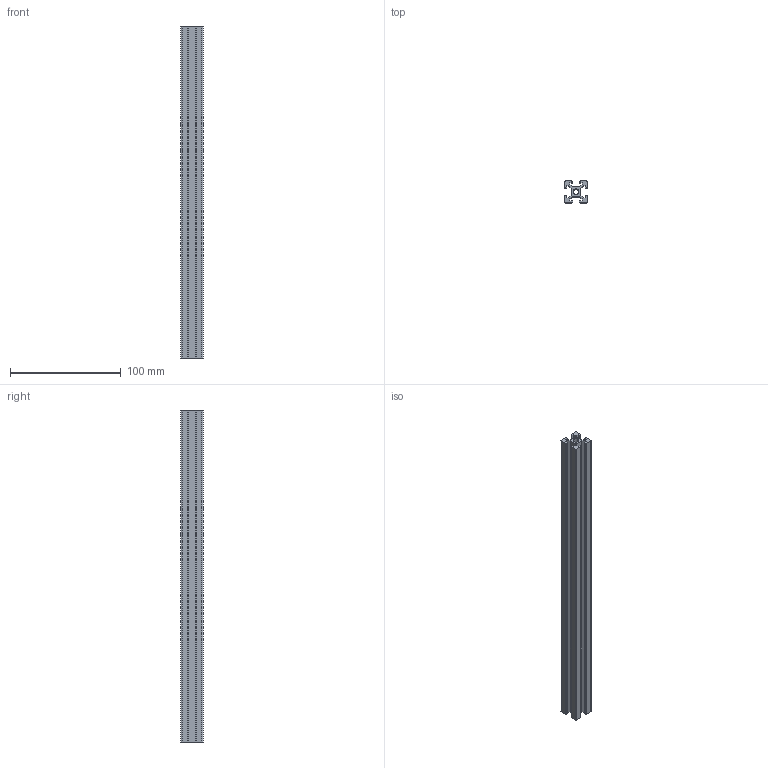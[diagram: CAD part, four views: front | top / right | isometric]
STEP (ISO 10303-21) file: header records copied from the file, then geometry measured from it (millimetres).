
FILE_DESCRIPTION (( 'STEP AP203' ), '1' );
FILE_NAME ('4-CE-2020-6.STEP', '2015-07-07T02:31:47', ( '' ), ( '' ), 'SwSTEP 2.0', 'SolidWorks 2013', '' );
FILE_SCHEMA (( 'CONFIG_CONTROL_DESIGN' ));
Length unit declared in the file: millimetre
Products named in the file (1): 4-CE-2020-6
Bounding box: 20 x 20 x 300 mm (x, y, z)
Volume: 53494.7 mm3; surface area: 50430 mm2
Topology: 1 solids, 1 shells, 68 faces, 198 edges, 132 vertices
Faces by surface type: plane 62, cylinder 6
Entity records: 2295 total; most frequent: CARTESIAN_POINT 399, ORIENTED_EDGE 396, DIRECTION 348, EDGE_CURVE 198, LINE 186, VECTOR 186, VERTEX_POINT 132, AXIS2_PLACEMENT_3D 81
